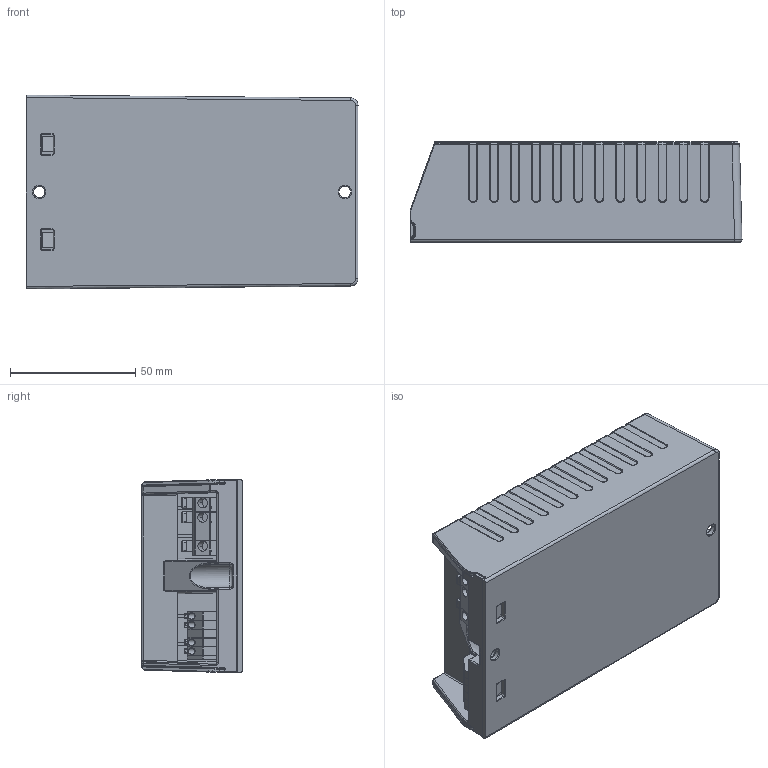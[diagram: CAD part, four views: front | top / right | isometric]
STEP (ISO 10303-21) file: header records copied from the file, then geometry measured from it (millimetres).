
FILE_DESCRIPTION(('Creo Elements/Direct Modeling STEP Export'),'2;1');
FILE_NAME('K72.2_Prog. _1-10V_ 40-120W.stp','2024-06-12T13:45:54',(''),(''),'Creo Elements/Direct Modeling STEP processor for AP214 (Solid Model)','Creo Elements/Direct Modeling 20.6 25-Mar-2023 (C) Parametric Technology GmbH','');
FILE_SCHEMA(('AUTOMOTIVE_DESIGN { 1 0 10303 214 1 1 1 1 }'));
Length unit declared in the file: millimetre
Products named in the file (4): PCB; case; case cover; K72.2_Prog. _1-10V_ 40-120W
Assembly tree (3 placements, depth 2):
  K72.2_Prog. _1-10V_ 40-120W
    case cover
    case
    PCB
Bounding box: 132.51 x 40.09 x 77.36 mm (x, y, z)
Volume: 88989.4 mm3; surface area: 95863.3 mm2
Topology: 3 solids, 54 shells, 2804 faces, 7449 edges, 4663 vertices
Faces by surface type: plane 1280, cylinder 1015, torus 251, cone 122, bspline 87, sphere 49
Entity records: 91139 total; most frequent: CARTESIAN_POINT 23487, ORIENTED_EDGE 14792, DIRECTION 13383, EDGE_CURVE 7396, VERTEX_POINT 4663, VECTOR 4485, LINE 4485, AXIS2_PLACEMENT_3D 4449
